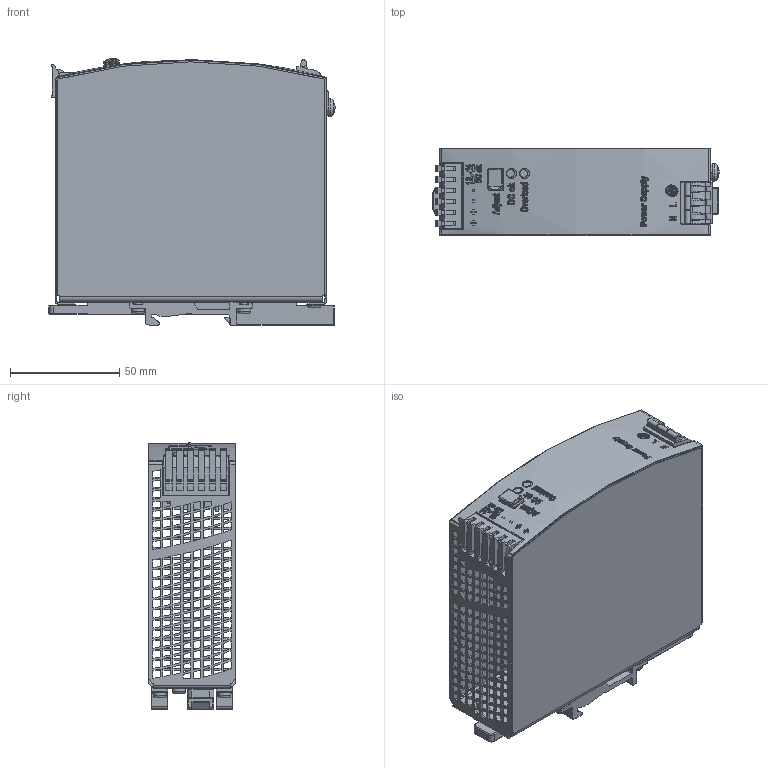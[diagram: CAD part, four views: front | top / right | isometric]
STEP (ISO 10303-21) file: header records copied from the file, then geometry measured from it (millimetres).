
FILE_DESCRIPTION(/* description */ ('','CAx-IF Rec.Pracs.---Representation and Presentation of Product Manufacturing Information (PMI)---3.8---2014-02-18'),/* implementation_level */ '2;1');
FILE_NAME(/* name */ 'L:\MKT-GER\Daten von KO\QS5.241-60 (348.76)\md3_qs5_241-60.dxf.stp',/* time_stamp */ '2016-03-31T06:57:56+02:00',/* author */ ('rahns'),/* organization */ (''),/* preprocessor_version */ 'ST-DEVELOPER v16.1',/* originating_system */ 'Autodesk Inventor 2016',/* authorisation */ '6464,1 mm^3');
FILE_SCHEMA (('AP242_MANAGED_MODEL_BASED_3D_ENGINEERING_MIM_LF { 1 0 10303 442 1 1 4 }'));
Products named in the file (14): HOUSING COVER 348.00; HOUSING BODY 348.00; TERMINAL 3P R6,35; TERMINAL 6P R5; WASHER 4; SCREW 4x8; SLIDER; SCREW 3x6; T HOLDER; POTENTIOMETER COVER; LED GN; LED RD; FRONTFOIL 348.76; 348.76
Assembly tree (19 placements, depth 2):
  348.76
    HOUSING COVER 348.00
    HOUSING BODY 348.00
    TERMINAL 3P R6,35
    TERMINAL 6P R5
    WASHER 4
    SCREW 4x8
    SLIDER
    SCREW 3x6  x6
    T HOLDER  x2
    POTENTIOMETER COVER
    LED GN
    LED RD
    FRONTFOIL 348.76
Bounding box: 130.77 x 40 x 121.98 mm (x, y, z)
Volume: 79820.5 mm3; surface area: 109748.4 mm2
Topology: 19 solids, 19 shells, 3163 faces, 8862 edges, 5888 vertices
Faces by surface type: plane 2168, bspline 554, cylinder 383, torus 25, cone 20, sphere 13
Full cylindrical faces by diameter (mm): 1 x6, 1.25 x3, 3 x6, 3.1 x4, 3.5 x2, 3.621 x1, 4 x1, 4.1 x1, 4.355 x1, 4.5 x1, 4.6 x2, 4.9 x1, 5 x3, 6 x6
Entity records: 176302 total; most frequent: CARTESIAN_POINT 99740, ORIENTED_EDGE 16956, DIRECTION 13100, EDGE_CURVE 8478, LINE 6140, VECTOR 6140, VERTEX_POINT 5649, EDGE_LOOP 3805
